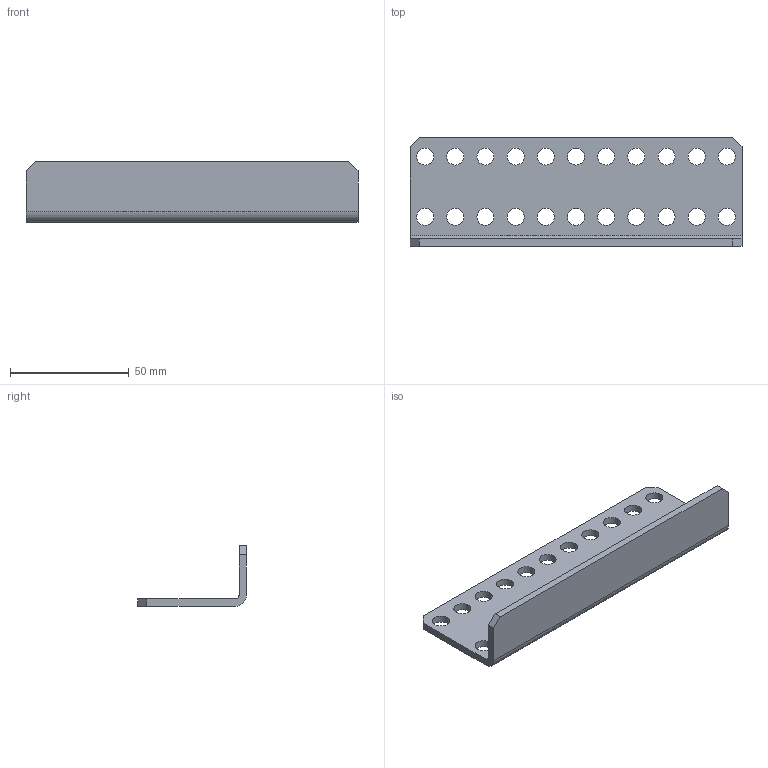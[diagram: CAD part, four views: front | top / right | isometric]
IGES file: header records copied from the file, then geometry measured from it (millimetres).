
Global section: file name: No Iges File Name specified; native system: AutoDesk Inventor R5.0; preprocessor: AutoDesk Inventor Iges Exporter R5.0; author: No Author specified; organization: No Organization specified; date: 20070111.213741; units: inch
Bounding box: 139.7 x 45.69 x 25.4 mm (x, y, z)
Surface area: 19548.3 mm2 (no closed solid volume)
Topology: 0 solids, 0 shells, 36 faces, 204 edges, 182 vertices
Faces by surface type: bspline 22, plane 12, revolution 2
